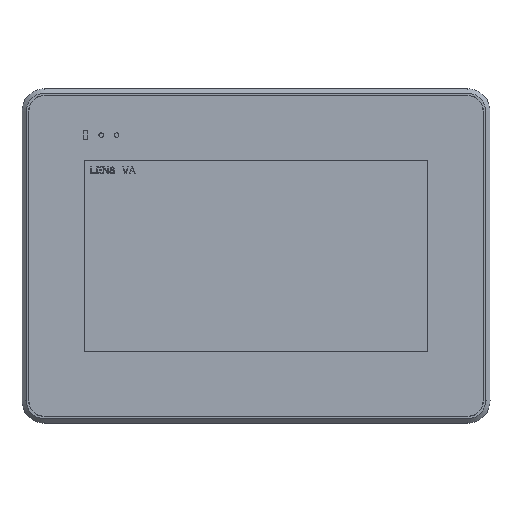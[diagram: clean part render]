
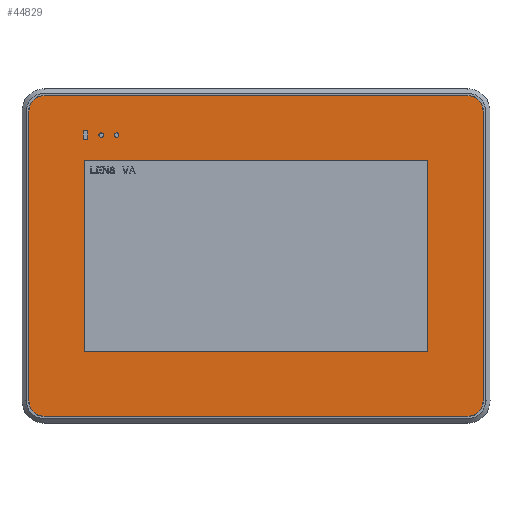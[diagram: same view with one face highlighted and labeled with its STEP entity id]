
A CAD part, top view. The second image highlights one B-rep face of the part: STEP entity #44829.
In plain terms, the highlighted planar face has unit normal (0, 0, 1).
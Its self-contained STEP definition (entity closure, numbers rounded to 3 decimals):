
#559=CARTESIAN_POINT('',(95.,65.,23.4));
#560=DIRECTION('',(0.,0.,-1.));
#561=DIRECTION('',(0.,1.,0.));
#562=AXIS2_PLACEMENT_3D('',#559,#560,#561);
#564=DIRECTION('',(0.,-1.,0.));
#565=VECTOR('',#564,130.);
#566=CARTESIAN_POINT('',(101.9,65.,23.4));
#567=LINE('',#566,#565);
#568=CARTESIAN_POINT('',(95.,-65.,23.4));
#569=DIRECTION('',(0.,0.,-1.));
#570=DIRECTION('',(1.,0.,0.));
#571=AXIS2_PLACEMENT_3D('',#568,#569,#570);
#573=DIRECTION('',(-1.,0.,0.));
#574=VECTOR('',#573,190.);
#575=CARTESIAN_POINT('',(95.,-71.9,23.4));
#576=LINE('',#575,#574);
#577=CARTESIAN_POINT('',(-95.,-65.,23.4));
#578=DIRECTION('',(0.,0.,-1.));
#579=DIRECTION('',(0.,-1.,0.));
#580=AXIS2_PLACEMENT_3D('',#577,#578,#579);
#582=DIRECTION('',(0.,1.,0.));
#583=VECTOR('',#582,130.);
#584=CARTESIAN_POINT('',(-101.9,-65.,23.4));
#585=LINE('',#584,#583);
#586=CARTESIAN_POINT('',(-95.,65.,23.4));
#587=DIRECTION('',(0.,0.,-1.));
#588=DIRECTION('',(-1.,0.,0.));
#589=AXIS2_PLACEMENT_3D('',#586,#587,#588);
#591=DIRECTION('',(1.,0.,0.));
#592=VECTOR('',#591,190.);
#593=CARTESIAN_POINT('',(-95.,71.9,23.4));
#594=LINE('',#593,#592);
#595=CARTESIAN_POINT('',(-69.5,54.24,23.4));
#596=DIRECTION('',(0.,0.,1.));
#597=DIRECTION('',(1.,0.,0.));
#598=AXIS2_PLACEMENT_3D('',#595,#596,#597);
#600=CARTESIAN_POINT('',(-69.5,54.24,23.4));
#601=DIRECTION('',(0.,0.,1.));
#602=DIRECTION('',(-1.,0.,0.));
#603=AXIS2_PLACEMENT_3D('',#600,#601,#602);
#605=CARTESIAN_POINT('',(-62.5,54.24,23.4));
#606=DIRECTION('',(0.,0.,1.));
#607=DIRECTION('',(1.,0.,0.));
#608=AXIS2_PLACEMENT_3D('',#605,#606,#607);
#610=CARTESIAN_POINT('',(-62.5,54.24,23.4));
#611=DIRECTION('',(0.,0.,1.));
#612=DIRECTION('',(-1.,0.,0.));
#613=AXIS2_PLACEMENT_3D('',#610,#611,#612);
#615=CARTESIAN_POINT('',(-76.,55.74,23.4));
#616=DIRECTION('',(0.,0.,1.));
#617=DIRECTION('',(1.,0.,0.));
#618=AXIS2_PLACEMENT_3D('',#615,#616,#617);
#620=CARTESIAN_POINT('',(-77.,55.74,23.4));
#621=DIRECTION('',(0.,0.,1.));
#622=DIRECTION('',(0.,1.,0.));
#623=AXIS2_PLACEMENT_3D('',#620,#621,#622);
#625=CARTESIAN_POINT('',(-77.,52.74,23.4));
#626=DIRECTION('',(0.,0.,1.));
#627=DIRECTION('',(-1.,0.,0.));
#628=AXIS2_PLACEMENT_3D('',#625,#626,#627);
#630=CARTESIAN_POINT('',(-76.,52.74,23.4));
#631=DIRECTION('',(0.,0.,1.));
#632=DIRECTION('',(0.,-1.,0.));
#633=AXIS2_PLACEMENT_3D('',#630,#631,#632);
#671=DIRECTION('',(0.,1.,0.));
#672=VECTOR('',#671,85.88);
#673=CARTESIAN_POINT('',(-77.1,-42.94,23.4));
#674=LINE('',#673,#672);
#675=DIRECTION('',(1.,0.,0.));
#676=VECTOR('',#675,154.2);
#677=CARTESIAN_POINT('',(-77.1,42.94,23.4));
#678=LINE('',#677,#676);
#683=DIRECTION('',(0.,-1.,0.));
#684=VECTOR('',#683,85.88);
#685=CARTESIAN_POINT('',(77.1,42.94,23.4));
#686=LINE('',#685,#684);
#691=DIRECTION('',(-1.,0.,0.));
#692=VECTOR('',#691,154.2);
#693=CARTESIAN_POINT('',(77.1,-42.94,23.4));
#694=LINE('',#693,#692);
#1919=DIRECTION('',(0.,-1.,0.));
#1920=VECTOR('',#1919,3.);
#1921=CARTESIAN_POINT('',(-75.5,55.74,23.4));
#1922=LINE('',#1921,#1920);
#1959=DIRECTION('',(0.,1.,0.));
#1960=VECTOR('',#1959,3.);
#1961=CARTESIAN_POINT('',(-77.5,52.74,23.4));
#1962=LINE('',#1961,#1960);
#1967=DIRECTION('',(-1.,0.,0.));
#1968=VECTOR('',#1967,1.);
#1969=CARTESIAN_POINT('',(-76.,52.24,23.4));
#1970=LINE('',#1969,#1968);
#1991=DIRECTION('',(1.,0.,0.));
#1992=VECTOR('',#1991,1.);
#1993=CARTESIAN_POINT('',(-77.,56.24,23.4));
#1994=LINE('',#1993,#1992);
#41656=CARTESIAN_POINT('',(-101.9,-65.,23.4));
#41657=CARTESIAN_POINT('',(-101.9,65.,23.4));
#41658=VERTEX_POINT('',#41656);
#41659=VERTEX_POINT('',#41657);
#41660=CARTESIAN_POINT('',(-95.,71.9,23.4));
#41661=CARTESIAN_POINT('',(95.,71.9,23.4));
#41662=VERTEX_POINT('',#41660);
#41663=VERTEX_POINT('',#41661);
#41664=CARTESIAN_POINT('',(101.9,65.,23.4));
#41665=CARTESIAN_POINT('',(101.9,-65.,23.4));
#41666=VERTEX_POINT('',#41664);
#41667=VERTEX_POINT('',#41665);
#41668=CARTESIAN_POINT('',(95.,-71.9,23.4));
#41669=CARTESIAN_POINT('',(-95.,-71.9,23.4));
#41670=VERTEX_POINT('',#41668);
#41671=VERTEX_POINT('',#41669);
#41672=CARTESIAN_POINT('',(-68.5,54.24,23.4));
#41673=CARTESIAN_POINT('',(-70.5,54.24,23.4));
#41674=VERTEX_POINT('',#41672);
#41675=VERTEX_POINT('',#41673);
#41676=CARTESIAN_POINT('',(-61.5,54.24,23.4));
#41677=CARTESIAN_POINT('',(-63.5,54.24,23.4));
#41678=VERTEX_POINT('',#41676);
#41679=VERTEX_POINT('',#41677);
#41680=CARTESIAN_POINT('',(-75.5,55.74,23.4));
#41681=CARTESIAN_POINT('',(-76.,56.24,23.4));
#41682=VERTEX_POINT('',#41680);
#41683=VERTEX_POINT('',#41681);
#41684=CARTESIAN_POINT('',(-77.,56.24,23.4));
#41685=CARTESIAN_POINT('',(-77.5,55.74,23.4));
#41686=VERTEX_POINT('',#41684);
#41687=VERTEX_POINT('',#41685);
#41688=CARTESIAN_POINT('',(-77.5,52.74,23.4));
#41689=CARTESIAN_POINT('',(-77.,52.24,23.4));
#41690=VERTEX_POINT('',#41688);
#41691=VERTEX_POINT('',#41689);
#41692=CARTESIAN_POINT('',(-76.,52.24,23.4));
#41693=CARTESIAN_POINT('',(-75.5,52.74,23.4));
#41694=VERTEX_POINT('',#41692);
#41695=VERTEX_POINT('',#41693);
#41704=CARTESIAN_POINT('',(-77.1,-42.94,23.4));
#41705=CARTESIAN_POINT('',(-77.1,42.94,23.4));
#41706=VERTEX_POINT('',#41704);
#41707=VERTEX_POINT('',#41705);
#41710=CARTESIAN_POINT('',(77.1,42.94,23.4));
#41711=VERTEX_POINT('',#41710);
#41714=CARTESIAN_POINT('',(77.1,-42.94,23.4));
#41715=VERTEX_POINT('',#41714);
#44774=CARTESIAN_POINT('',(0.,0.,23.4));
#44775=DIRECTION('',(0.,0.,1.));
#44776=DIRECTION('',(1.,0.,0.));
#44777=AXIS2_PLACEMENT_3D('',#44774,#44775,#44776);
#44778=PLANE('',#44777);
#44779=ORIENTED_EDGE('',*,*,#44678,.T.);
#44780=ORIENTED_EDGE('',*,*,#44699,.T.);
#44781=ORIENTED_EDGE('',*,*,#44720,.T.);
#44782=ORIENTED_EDGE('',*,*,#44741,.T.);
#44783=ORIENTED_EDGE('',*,*,#44761,.T.);
#44784=ORIENTED_EDGE('',*,*,#44614,.T.);
#44785=ORIENTED_EDGE('',*,*,#44636,.T.);
#44786=ORIENTED_EDGE('',*,*,#44657,.T.);
#44787=EDGE_LOOP('',(#44779,#44780,#44781,#44782,#44783,#44784,#44785,#44786));
#44788=FACE_OUTER_BOUND('',#44787,.F.);
#44790=ORIENTED_EDGE('',*,*,#44789,.T.);
#44792=ORIENTED_EDGE('',*,*,#44791,.T.);
#44793=EDGE_LOOP('',(#44790,#44792));
#44794=FACE_BOUND('',#44793,.F.);
#44796=ORIENTED_EDGE('',*,*,#44795,.T.);
#44798=ORIENTED_EDGE('',*,*,#44797,.T.);
#44799=EDGE_LOOP('',(#44796,#44798));
#44800=FACE_BOUND('',#44799,.F.);
#44802=ORIENTED_EDGE('',*,*,#44801,.F.);
#44804=ORIENTED_EDGE('',*,*,#44803,.F.);
#44806=ORIENTED_EDGE('',*,*,#44805,.F.);
#44808=ORIENTED_EDGE('',*,*,#44807,.F.);
#44809=EDGE_LOOP('',(#44802,#44804,#44806,#44808));
#44810=FACE_BOUND('',#44809,.F.);
#44812=ORIENTED_EDGE('',*,*,#44811,.F.);
#44814=ORIENTED_EDGE('',*,*,#44813,.T.);
#44816=ORIENTED_EDGE('',*,*,#44815,.F.);
#44818=ORIENTED_EDGE('',*,*,#44817,.T.);
#44820=ORIENTED_EDGE('',*,*,#44819,.F.);
#44822=ORIENTED_EDGE('',*,*,#44821,.T.);
#44824=ORIENTED_EDGE('',*,*,#44823,.F.);
#44826=ORIENTED_EDGE('',*,*,#44825,.T.);
#44827=EDGE_LOOP('',(#44812,#44814,#44816,#44818,#44820,#44822,#44824,#44826));
#44828=FACE_BOUND('',#44827,.F.);
#563=CIRCLE('',#562,6.9);
#572=CIRCLE('',#571,6.9);
#581=CIRCLE('',#580,6.9);
#590=CIRCLE('',#589,6.9);
#599=CIRCLE('',#598,1.);
#604=CIRCLE('',#603,1.);
#609=CIRCLE('',#608,1.);
#614=CIRCLE('',#613,1.);
#619=CIRCLE('',#618,0.5);
#624=CIRCLE('',#623,0.5);
#629=CIRCLE('',#628,0.5);
#634=CIRCLE('',#633,0.5);
#44614=EDGE_CURVE('',#41658,#41659,#585,.T.);
#44636=EDGE_CURVE('',#41659,#41662,#590,.T.);
#44657=EDGE_CURVE('',#41662,#41663,#594,.T.);
#44678=EDGE_CURVE('',#41663,#41666,#563,.T.);
#44699=EDGE_CURVE('',#41666,#41667,#567,.T.);
#44720=EDGE_CURVE('',#41667,#41670,#572,.T.);
#44741=EDGE_CURVE('',#41670,#41671,#576,.T.);
#44761=EDGE_CURVE('',#41671,#41658,#581,.T.);
#44789=EDGE_CURVE('',#41674,#41675,#599,.T.);
#44791=EDGE_CURVE('',#41675,#41674,#604,.T.);
#44795=EDGE_CURVE('',#41678,#41679,#609,.T.);
#44797=EDGE_CURVE('',#41679,#41678,#614,.T.);
#44801=EDGE_CURVE('',#41706,#41707,#674,.T.);
#44803=EDGE_CURVE('',#41715,#41706,#694,.T.);
#44805=EDGE_CURVE('',#41711,#41715,#686,.T.);
#44807=EDGE_CURVE('',#41707,#41711,#678,.T.);
#44811=EDGE_CURVE('',#41682,#41695,#1922,.T.);
#44813=EDGE_CURVE('',#41682,#41683,#619,.T.);
#44815=EDGE_CURVE('',#41686,#41683,#1994,.T.);
#44817=EDGE_CURVE('',#41686,#41687,#624,.T.);
#44819=EDGE_CURVE('',#41690,#41687,#1962,.T.);
#44821=EDGE_CURVE('',#41690,#41691,#629,.T.);
#44823=EDGE_CURVE('',#41694,#41691,#1970,.T.);
#44825=EDGE_CURVE('',#41694,#41695,#634,.T.);
#44829=ADVANCED_FACE('',(#44788,#44794,#44800,#44810,#44828),#44778,.T.);
